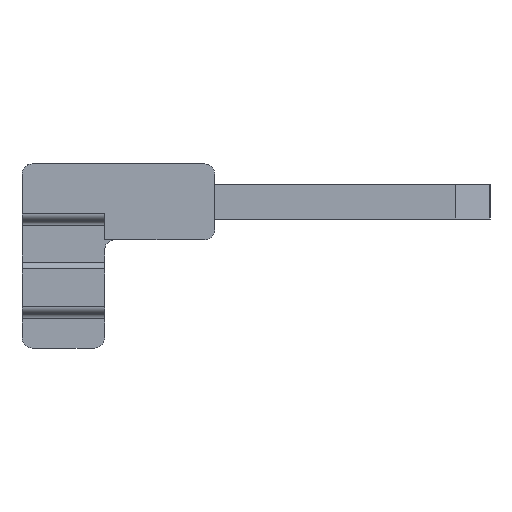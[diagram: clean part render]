
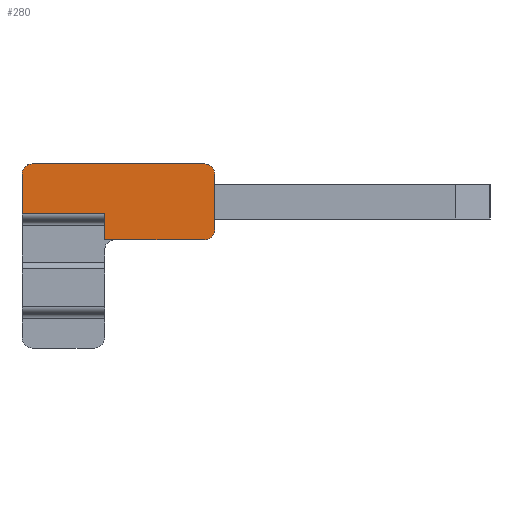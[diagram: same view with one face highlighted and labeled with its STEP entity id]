
A CAD part, left-side view. The second image highlights one B-rep face of the part: STEP entity #280.
In plain terms, the highlighted planar face has unit normal (-1, 0, 0).
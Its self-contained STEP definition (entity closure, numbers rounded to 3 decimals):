
#64=FACE_OUTER_BOUND('',#468,.T.);
#219=CIRCLE('',#1861,0.3);
#220=CIRCLE('',#1862,0.3);
#221=CIRCLE('',#1863,0.3);
#280=ADVANCED_FACE('',(#64),#378,.F.);
#378=PLANE('',#1864);
#468=EDGE_LOOP('',(#673,#674,#675,#676,#677,#678,#679,#680,#681));
#673=ORIENTED_EDGE('',*,*,#1318,.T.);
#674=ORIENTED_EDGE('',*,*,#1319,.F.);
#675=ORIENTED_EDGE('',*,*,#1320,.F.);
#676=ORIENTED_EDGE('',*,*,#1321,.F.);
#677=ORIENTED_EDGE('',*,*,#1317,.T.);
#678=ORIENTED_EDGE('',*,*,#1322,.T.);
#679=ORIENTED_EDGE('',*,*,#1323,.T.);
#680=ORIENTED_EDGE('',*,*,#1239,.T.);
#681=ORIENTED_EDGE('',*,*,#1324,.F.);
#1077=VERTEX_POINT('',#2554);
#1078=VERTEX_POINT('',#2556);
#1141=VERTEX_POINT('',#2705);
#1145=VERTEX_POINT('',#2713);
#1146=VERTEX_POINT('',#2717);
#1147=VERTEX_POINT('',#2718);
#1148=VERTEX_POINT('',#2720);
#1149=VERTEX_POINT('',#2722);
#1150=VERTEX_POINT('',#2725);
#1239=EDGE_CURVE('',#1078,#1077,#1490,.T.);
#1317=EDGE_CURVE('',#1141,#1145,#1538,.T.);
#1318=EDGE_CURVE('',#1146,#1147,#1539,.T.);
#1319=EDGE_CURVE('',#1148,#1147,#219,.T.);
#1320=EDGE_CURVE('',#1149,#1148,#1540,.T.);
#1321=EDGE_CURVE('',#1141,#1149,#1541,.T.);
#1322=EDGE_CURVE('',#1145,#1150,#1542,.T.);
#1323=EDGE_CURVE('',#1150,#1078,#220,.T.);
#1324=EDGE_CURVE('',#1146,#1077,#221,.T.);
#1490=LINE('',#2555,#1657);
#1538=LINE('',#2714,#1705);
#1539=LINE('',#2716,#1706);
#1540=LINE('',#2721,#1707);
#1541=LINE('',#2723,#1708);
#1542=LINE('',#2724,#1709);
#1657=VECTOR('',#2012,1.);
#1705=VECTOR('',#2146,1.);
#1706=VECTOR('',#2149,1.);
#1707=VECTOR('',#2152,1.);
#1708=VECTOR('',#2153,1.);
#1709=VECTOR('',#2154,1.);
#1861=AXIS2_PLACEMENT_3D('',#2719,#2150,#2151);
#1862=AXIS2_PLACEMENT_3D('',#2726,#2155,#2156);
#1863=AXIS2_PLACEMENT_3D('',#2727,#2157,#2158);
#1864=AXIS2_PLACEMENT_3D('',#2728,#2159,#2160);
#2012=DIRECTION('',(0.,0.,1.));
#2146=DIRECTION('',(0.,0.,-1.));
#2149=DIRECTION('',(0.,1.,0.));
#2150=DIRECTION('',(1.,0.,0.));
#2151=DIRECTION('',(0.,0.,-1.));
#2152=DIRECTION('',(0.,0.,1.));
#2153=DIRECTION('',(0.,1.,0.));
#2154=DIRECTION('',(0.,-1.,0.));
#2155=DIRECTION('',(-1.,0.,0.));
#2156=DIRECTION('',(0.,0.,-1.));
#2157=DIRECTION('',(1.,0.,0.));
#2158=DIRECTION('',(0.,0.,-1.));
#2159=DIRECTION('',(1.,0.,0.));
#2160=DIRECTION('',(0.,0.,-1.));
#2554=CARTESIAN_POINT('',(-11.825,-8.5,0.675));
#2555=CARTESIAN_POINT('',(-11.825,-8.5,-4.475));
#2556=CARTESIAN_POINT('',(-11.825,-8.5,-0.925));
#2705=CARTESIAN_POINT('',(-11.825,-5.3,-0.475));
#2713=CARTESIAN_POINT('',(-11.825,-5.3,-1.225));
#2714=CARTESIAN_POINT('',(-11.825,-5.3,-4.475));
#2716=CARTESIAN_POINT('',(-11.825,-7.7,0.975));
#2717=CARTESIAN_POINT('',(-11.825,-8.2,0.975));
#2718=CARTESIAN_POINT('',(-11.825,-3.2,0.975));
#2719=CARTESIAN_POINT('',(-11.825,-3.2,0.675));
#2720=CARTESIAN_POINT('',(-11.825,-2.9,0.675));
#2721=CARTESIAN_POINT('',(-11.825,-2.9,-4.125));
#2722=CARTESIAN_POINT('',(-11.825,-2.9,-0.475));
#2723=CARTESIAN_POINT('',(-11.825,-4.,-0.475));
#2724=CARTESIAN_POINT('',(-11.825,-11.5,-1.225));
#2725=CARTESIAN_POINT('',(-11.825,-8.2,-1.225));
#2726=CARTESIAN_POINT('',(-11.825,-8.2,-0.925));
#2727=CARTESIAN_POINT('',(-11.825,-8.2,0.675));
#2728=CARTESIAN_POINT('',(-11.825,-4.,-4.475));
